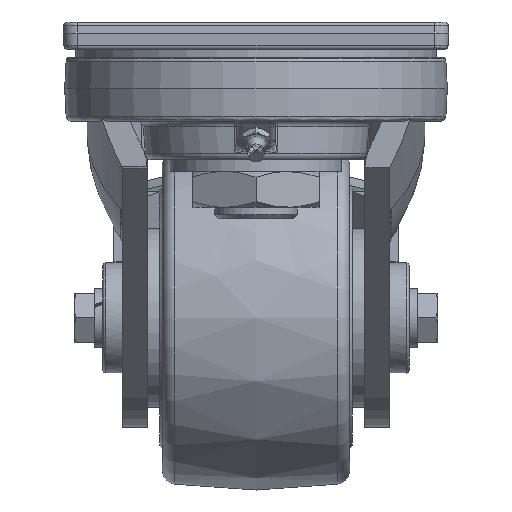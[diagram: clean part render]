
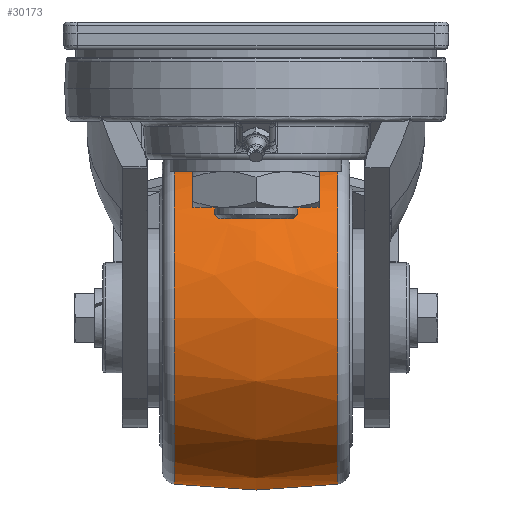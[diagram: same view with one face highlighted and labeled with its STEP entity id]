
A CAD part, left-side view. The second image highlights one B-rep face of the part: STEP entity #30173.
In plain terms, the highlighted free-form (B-spline) face has degree [2, 2] with [3, 9] control points.
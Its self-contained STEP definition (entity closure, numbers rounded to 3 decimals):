
#19=(
BOUNDED_SURFACE()
B_SPLINE_SURFACE(2,2,((#43900,#43901,#43902,#43903,#43904,#43905,#43906,
#43907,#43908),(#43909,#43910,#43911,#43912,#43913,#43914,#43915,#43916,
#43917),(#43918,#43919,#43920,#43921,#43922,#43923,#43924,#43925,#43926)),
 .UNSPECIFIED.,.F.,.T.,.F.)
B_SPLINE_SURFACE_WITH_KNOTS((3,3),(3,2,2,2,3),(-0.142,0.142),
(-3.142,-1.571,0.,1.571,3.142),
 .UNSPECIFIED.)
GEOMETRIC_REPRESENTATION_ITEM()
RATIONAL_B_SPLINE_SURFACE(((1.,0.707,1.,0.707,1.,
0.707,1.,0.707,1.),(0.99,0.7,
0.99,0.7,0.99,0.7,
0.99,0.7,0.99),(1.,0.707,
1.,0.707,1.,0.707,1.,0.707,1.)))
REPRESENTATION_ITEM('')
SURFACE()
);
#8118=FACE_OUTER_BOUND('',#9885,.T.);
#9885=EDGE_LOOP('',(#21776,#21777,#21778,#21779,#21780,#21781));
#11418=CIRCLE('',#31901,60.388);
#11419=CIRCLE('',#31902,60.388);
#11420=CIRCLE('',#31903,210.);
#11421=CIRCLE('',#31904,60.388);
#11422=CIRCLE('',#31905,60.388);
#12676=VERTEX_POINT('',#43895);
#12677=VERTEX_POINT('',#43897);
#12678=VERTEX_POINT('',#43927);
#12679=VERTEX_POINT('',#43929);
#16087=EDGE_CURVE('',#12676,#12677,#11418,.T.);
#16088=EDGE_CURVE('',#12677,#12676,#11419,.T.);
#16089=EDGE_CURVE('',#12676,#12678,#11420,.T.);
#16090=EDGE_CURVE('',#12678,#12679,#11421,.T.);
#16091=EDGE_CURVE('',#12679,#12678,#11422,.T.);
#21776=ORIENTED_EDGE('',*,*,#16088,.F.);
#21777=ORIENTED_EDGE('',*,*,#16087,.F.);
#21778=ORIENTED_EDGE('',*,*,#16089,.T.);
#21779=ORIENTED_EDGE('',*,*,#16090,.T.);
#21780=ORIENTED_EDGE('',*,*,#16091,.T.);
#21781=ORIENTED_EDGE('',*,*,#16089,.F.);
#30173=ADVANCED_FACE('',(#8118),#19,.F.);
#31901=AXIS2_PLACEMENT_3D('',#43898,#34763,#34764);
#31902=AXIS2_PLACEMENT_3D('',#43899,#34765,#34766);
#31903=AXIS2_PLACEMENT_3D('',#43928,#34767,#34768);
#31904=AXIS2_PLACEMENT_3D('',#43930,#34769,#34770);
#31905=AXIS2_PLACEMENT_3D('',#43931,#34771,#34772);
#34763=DIRECTION('center_axis',(0.,1.,0.));
#34764=DIRECTION('ref_axis',(0.,0.,-1.));
#34765=DIRECTION('center_axis',(0.,1.,0.));
#34766=DIRECTION('ref_axis',(0.,0.,-1.));
#34767=DIRECTION('center_axis',(1.,0.,0.));
#34768=DIRECTION('ref_axis',(0.,0.,1.));
#34769=DIRECTION('center_axis',(0.,1.,0.));
#34770=DIRECTION('ref_axis',(0.,0.,-1.));
#34771=DIRECTION('center_axis',(0.,1.,0.));
#34772=DIRECTION('ref_axis',(0.,0.,-1.));
#43895=CARTESIAN_POINT('',(77.5,29.707,-34.112));
#43897=CARTESIAN_POINT('',(17.112,29.707,-94.5));
#43898=CARTESIAN_POINT('Origin',(77.5,29.707,-94.5));
#43899=CARTESIAN_POINT('Origin',(77.5,29.707,-94.5));
#43900=CARTESIAN_POINT('Ctrl Pts',(77.5,-29.707,-34.112));
#43901=CARTESIAN_POINT('Ctrl Pts',(137.888,-29.707,-34.112));
#43902=CARTESIAN_POINT('Ctrl Pts',(137.888,-29.707,-94.5));
#43903=CARTESIAN_POINT('Ctrl Pts',(137.888,-29.707,-154.888));
#43904=CARTESIAN_POINT('Ctrl Pts',(77.5,-29.707,-154.888));
#43905=CARTESIAN_POINT('Ctrl Pts',(17.112,-29.707,-154.888));
#43906=CARTESIAN_POINT('Ctrl Pts',(17.112,-29.707,-94.5));
#43907=CARTESIAN_POINT('Ctrl Pts',(17.112,-29.707,-34.112));
#43908=CARTESIAN_POINT('Ctrl Pts',(77.5,-29.707,-34.112));
#43909=CARTESIAN_POINT('Ctrl Pts',(77.5,0.,
-29.867));
#43910=CARTESIAN_POINT('Ctrl Pts',(142.133,0.,
-29.867));
#43911=CARTESIAN_POINT('Ctrl Pts',(142.133,0.,
-94.5));
#43912=CARTESIAN_POINT('Ctrl Pts',(142.133,0.,
-159.133));
#43913=CARTESIAN_POINT('Ctrl Pts',(77.5,0.,
-159.133));
#43914=CARTESIAN_POINT('Ctrl Pts',(12.867,0.,
-159.133));
#43915=CARTESIAN_POINT('Ctrl Pts',(12.867,0.,
-94.5));
#43916=CARTESIAN_POINT('Ctrl Pts',(12.867,0.,
-29.867));
#43917=CARTESIAN_POINT('Ctrl Pts',(77.5,0.,
-29.867));
#43918=CARTESIAN_POINT('Ctrl Pts',(77.5,29.707,-34.112));
#43919=CARTESIAN_POINT('Ctrl Pts',(137.888,29.707,-34.112));
#43920=CARTESIAN_POINT('Ctrl Pts',(137.888,29.707,-94.5));
#43921=CARTESIAN_POINT('Ctrl Pts',(137.888,29.707,-154.888));
#43922=CARTESIAN_POINT('Ctrl Pts',(77.5,29.707,-154.888));
#43923=CARTESIAN_POINT('Ctrl Pts',(17.112,29.707,-154.888));
#43924=CARTESIAN_POINT('Ctrl Pts',(17.112,29.707,-94.5));
#43925=CARTESIAN_POINT('Ctrl Pts',(17.112,29.707,-34.112));
#43926=CARTESIAN_POINT('Ctrl Pts',(77.5,29.707,-34.112));
#43927=CARTESIAN_POINT('',(77.5,-29.707,-34.112));
#43928=CARTESIAN_POINT('Origin',(77.5,0.,-242.));
#43929=CARTESIAN_POINT('',(17.112,-29.707,-94.5));
#43930=CARTESIAN_POINT('Origin',(77.5,-29.707,-94.5));
#43931=CARTESIAN_POINT('Origin',(77.5,-29.707,-94.5));
